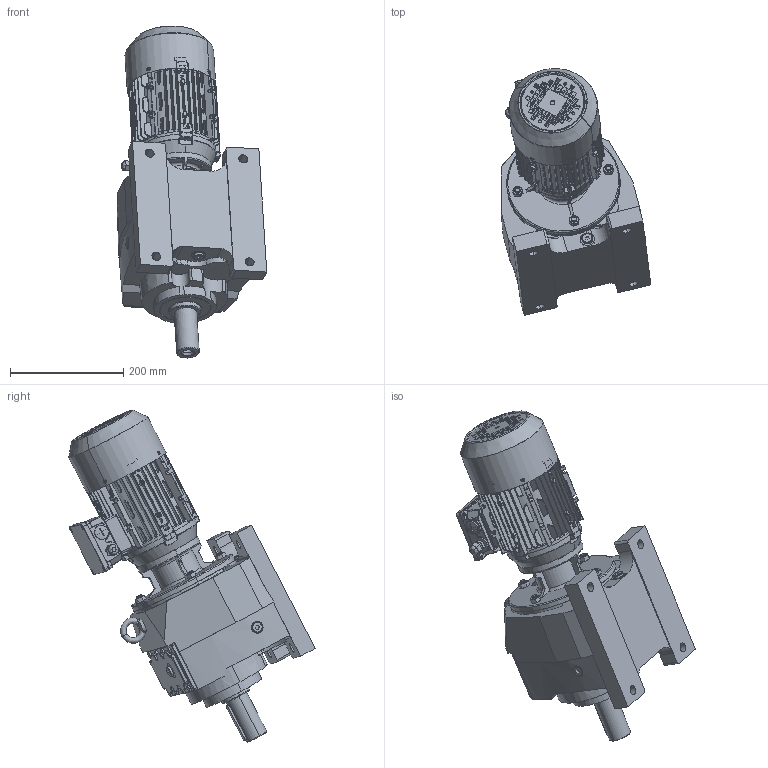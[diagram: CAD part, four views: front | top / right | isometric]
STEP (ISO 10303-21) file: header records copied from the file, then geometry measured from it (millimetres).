
FILE_DESCRIPTION (( 'STEP AP203' ), '1' );
FILE_NAME ('MV_373_0_MX-80.STEP', '2018-12-05T12:46:03', ( '' ), ( '' ), 'SwSTEP 2.0', 'SolidWorks 2012', '' );
FILE_SCHEMA (( 'CONFIG_CONTROL_DESIGN' ));
Products named in the file (15): MV_373_0_MX-80; MX3-80_B14; Flansch-80_IMB14; IE 3 80 Plug; IE3 80 Shaft; IE3 80 Cable glands; IE3 80 terminal box cover; IE3 80 Gasket for T-box(base); IE3 80 Teriminal box base; IE3 80 Shield; ML2A_Varsayìlan; IE3 80 Fan cover; IE3 80 Casing; M373; 3380B14_Varsayìlan
Assembly tree (14 placements, depth 3):
  MV_373_0_MX-80
    M373
    3380B14_Varsayìlan
    ML2A_Varsayìlan
    MX3-80_B14
      IE3 80 Casing
      IE3 80 Shield
      IE3 80 Fan cover
      IE3 80 Teriminal box base
      IE3 80 Gasket for T-box(base)
      IE3 80 terminal box cover
      IE3 80 Cable glands
      Flansch-80_IMB14
      IE 3 80 Plug
      IE3 80 Shaft
Bounding box: 264.07 x 435.19 x 586.02 mm (x, y, z)
Volume: 10438611.5 mm3; surface area: 1005890.8 mm2
Topology: 13 solids, 13 shells, 5039 faces, 12805 edges, 7798 vertices
Faces by surface type: bspline 1416, plane 1386, cylinder 1365, cone 537, torus 231, sphere 104
Entity records: 219000 total; most frequent: CARTESIAN_POINT 109334, ORIENTED_EDGE 25300, DIRECTION 18721, EDGE_CURVE 12650, VERTEX_POINT 7782, AXIS2_PLACEMENT_3D 6997, EDGE_LOOP 5426, ADVANCED_FACE 5039
